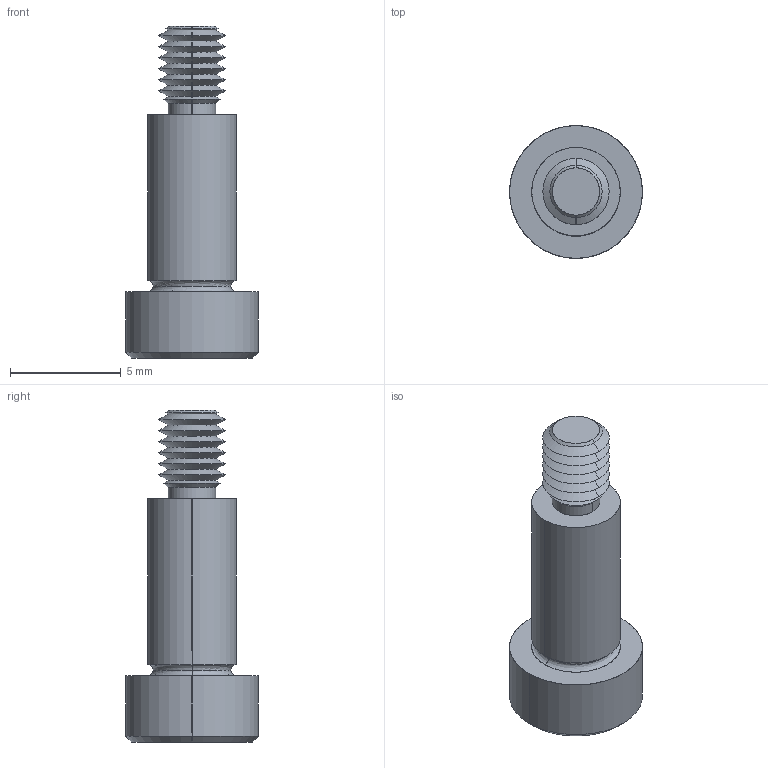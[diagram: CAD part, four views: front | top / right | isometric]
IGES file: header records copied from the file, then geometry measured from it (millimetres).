
Start section: SolidWorks IGES file using analytic representation for surfaces
Global section: file name: C:\Users\IanO\Documents\Temp Folder\GENERAL\SCREW REVISION\P0130_v2\P0130.T5_v2_20220106_IGES\P0130.040-008-T5.igs; native system: SolidWorks 2019; preprocessor: SolidWorks 2019; author: IanO; date: 220106.220624; units: millimetre
Bounding box: 6 x 6 x 15 mm (x, y, z)
Surface area: 285.4 mm2 (no closed solid volume)
Topology: 0 solids, 0 shells, 68 faces, 520 edges, 518 vertices
Faces by surface type: revolution 48, bspline 20
